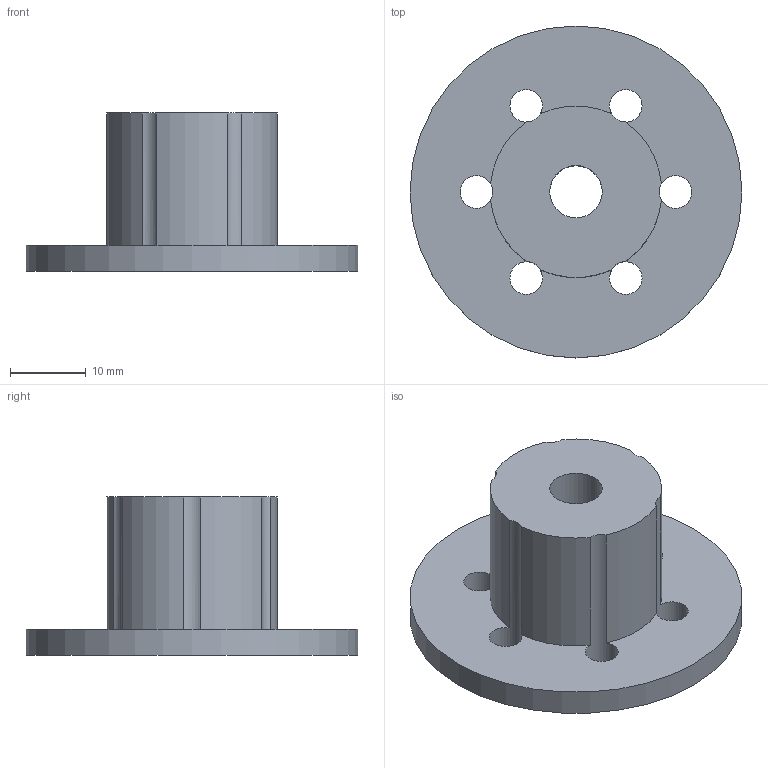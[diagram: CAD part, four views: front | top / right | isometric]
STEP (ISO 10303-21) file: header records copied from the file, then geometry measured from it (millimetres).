
FILE_DESCRIPTION(('Mechanical CAD reference from nasji.com'),'2;1');
FILE_NAME('NASJI.step','',(''),(''),'','NASJI distribution','');
FILE_SCHEMA(('AUTOMOTIVE_DESIGN { 1 0 10303 214 1 1 1 1 }'));
Length unit declared in the file: millimetre
Products named in the file (1): Open CASCADE STEP translator 7.8 236
Bounding box: 43.7 x 43.7 x 20.8 mm (x, y, z)
Volume: 10946.7 mm3; surface area: 5189.3 mm2
Topology: 1 solids, 1 shells, 17 faces, 60 edges, 40 vertices
Faces by surface type: cylinder 14, plane 3
Full cylindrical faces by diameter (mm): 4.3 x6, 6.9 x1, 43.7 x1
Entity records: 1540 total; most frequent: CARTESIAN_POINT 406, DIRECTION 208, ORIENTED_EDGE 120, PCURVE 120, DEFINITIONAL_REPRESENTATION 120, LINE 76, VECTOR 76, EDGE_CURVE 60
